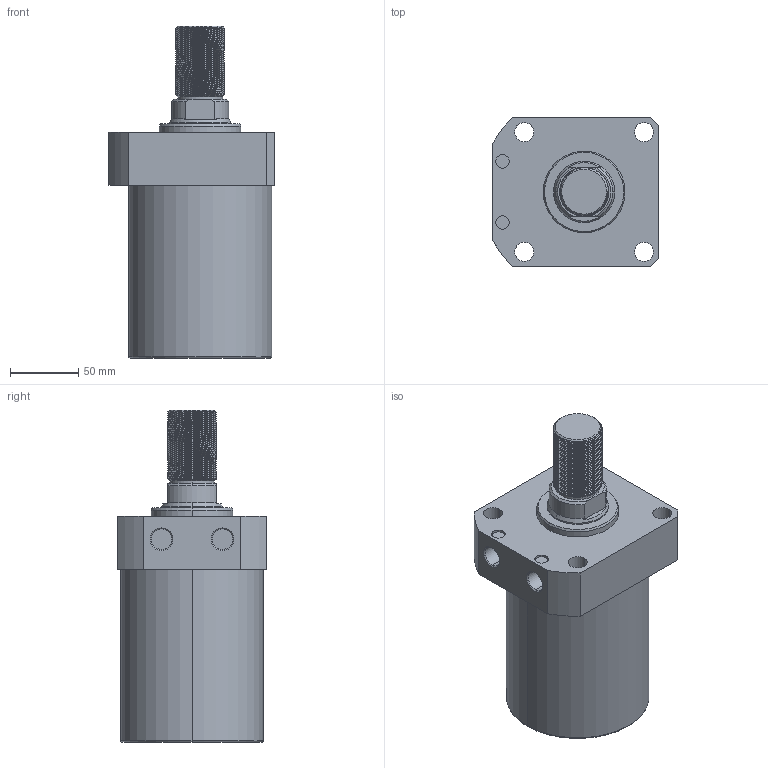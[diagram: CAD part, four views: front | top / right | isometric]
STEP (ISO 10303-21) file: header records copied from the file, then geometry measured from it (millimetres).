
FILE_DESCRIPTION (( 'STEP AP214' ), '1' );
FILE_NAME ('CLLR-105CT-080.STEP', '2020-01-10T02:50:28', ( 'Windows' ), ( 'Microsoft' ), 'SwSTEP 2.0', 'SolidWorks 2015', '' );
FILE_SCHEMA (( 'AUTOMOTIVE_DESIGN' ));
Length unit declared in the file: millimetre
Products named in the file (1): CLLR-105CT-080
Bounding box: 122 x 110 x 244 mm (x, y, z)
Volume: 1672292.3 mm3; surface area: 106044.9 mm2
Topology: 1 solids, 1 shells, 136 faces, 364 edges, 238 vertices
Faces by surface type: cylinder 96, plane 21, cone 15, torus 2, bspline 2
Entity records: 8223 total; most frequent: CARTESIAN_POINT 5092, ORIENTED_EDGE 728, DIRECTION 565, EDGE_CURVE 364, VERTEX_POINT 238, AXIS2_PLACEMENT_3D 215, EDGE_LOOP 152, FACE_OUTER_BOUND 136
